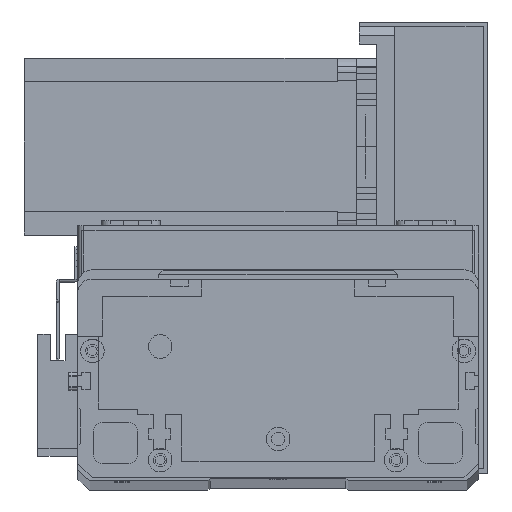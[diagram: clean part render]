
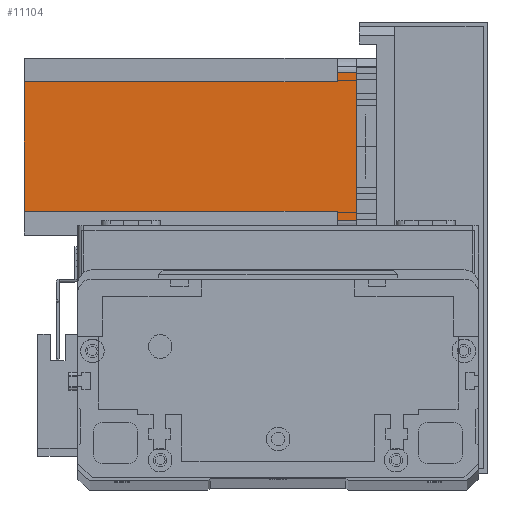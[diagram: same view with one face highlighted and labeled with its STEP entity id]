
A CAD part, top view. The second image highlights one B-rep face of the part: STEP entity #11104.
In plain terms, the highlighted planar face has unit normal (0, 0, 1) as drawn and (0, 1, 0) by its records, which use the part's own axes.
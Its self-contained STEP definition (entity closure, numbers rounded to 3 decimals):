
#647 = CARTESIAN_POINT ( 'NONE',  ( 55., 60., 0. ) ) ;
#1699 = VERTEX_POINT ( 'NONE', #21678 ) ;
#2316 = CARTESIAN_POINT ( 'NONE',  ( 8., 60., -6.5 ) ) ;
#3138 = LINE ( 'NONE', #26683, #27081 ) ;
#3574 = EDGE_LOOP ( 'NONE', ( #27264, #7863, #3942, #17014, #8942, #21915, #13953, #15687 ) ) ;
#3942 = ORIENTED_EDGE ( 'NONE', *, *, #22025, .F. ) ;
#4074 = EDGE_CURVE ( 'NONE', #25356, #17765, #4855, .T. ) ;
#4218 = CARTESIAN_POINT ( 'NONE',  ( 52., 60., -6.5 ) ) ;
#4855 = LINE ( 'NONE', #16626, #10487 ) ;
#5639 = CARTESIAN_POINT ( 'NONE',  ( 5., 60., 0. ) ) ;
#5799 = VECTOR ( 'NONE', #23069, 1000. ) ;
#5819 = LINE ( 'NONE', #4218, #18280 ) ;
#6130 = EDGE_CURVE ( 'NONE', #25356, #21111, #23641, .T. ) ;
#6528 = LINE ( 'NONE', #24067, #24227 ) ;
#6721 = EDGE_CURVE ( 'NONE', #28767, #21111, #28137, .T. ) ;
#7863 = ORIENTED_EDGE ( 'NONE', *, *, #29900, .T. ) ;
#7948 = EDGE_CURVE ( 'NONE', #28767, #23424, #6528, .T. ) ;
#8497 = LINE ( 'NONE', #28758, #11733 ) ;
#8942 = ORIENTED_EDGE ( 'NONE', *, *, #6130, .T. ) ;
#10487 = VECTOR ( 'NONE', #17628, 1000. ) ;
#10754 = CARTESIAN_POINT ( 'NONE',  ( 52., 60., -112.5 ) ) ;
#11076 = EDGE_CURVE ( 'NONE', #23424, #25251, #8497, .T. ) ;
#11104 = ADVANCED_FACE ( 'NONE', ( #17225 ), #28183, .T. ) ;
#11441 = VECTOR ( 'NONE', #22310, 1000. ) ;
#11733 = VECTOR ( 'NONE', #28477, 1000. ) ;
#12613 = CARTESIAN_POINT ( 'NONE',  ( 8., 60., -112.5 ) ) ;
#12823 = DIRECTION ( 'NONE',  ( 0., 0., -1. ) ) ;
#13953 = ORIENTED_EDGE ( 'NONE', *, *, #7948, .T. ) ;
#15687 = ORIENTED_EDGE ( 'NONE', *, *, #11076, .T. ) ;
#16626 = CARTESIAN_POINT ( 'NONE',  ( 52., 60., -112.5 ) ) ;
#17014 = ORIENTED_EDGE ( 'NONE', *, *, #4074, .F. ) ;
#17225 = FACE_OUTER_BOUND ( 'NONE', #3574, .T. ) ;
#17628 = DIRECTION ( 'NONE',  ( 0., 0., 1. ) ) ;
#17742 = DIRECTION ( 'NONE',  ( 0., 0., -1. ) ) ;
#17765 = VERTEX_POINT ( 'NONE', #25952 ) ;
#17962 = CARTESIAN_POINT ( 'NONE',  ( 8., 60., -112.5 ) ) ;
#18280 = VECTOR ( 'NONE', #18313, 1000. ) ;
#18313 = DIRECTION ( 'NONE',  ( 1., 0., 0. ) ) ;
#20868 = VERTEX_POINT ( 'NONE', #647 ) ;
#21111 = VERTEX_POINT ( 'NONE', #17962 ) ;
#21444 = VECTOR ( 'NONE', #12823, 1000. ) ;
#21678 = CARTESIAN_POINT ( 'NONE',  ( 55., 60., -6.5 ) ) ;
#21915 = ORIENTED_EDGE ( 'NONE', *, *, #6721, .F. ) ;
#22025 = EDGE_CURVE ( 'NONE', #17765, #1699, #5819, .T. ) ;
#22310 = DIRECTION ( 'NONE',  ( -1., 0., 0. ) ) ;
#23069 = DIRECTION ( 'NONE',  ( -1., 0., 0. ) ) ;
#23424 = VERTEX_POINT ( 'NONE', #26574 ) ;
#23534 = CARTESIAN_POINT ( 'NONE',  ( 0., 60., -112.5 ) ) ;
#23641 = LINE ( 'NONE', #23534, #11441 ) ;
#23850 = AXIS2_PLACEMENT_3D ( 'NONE', #28289, #28325, #28146 ) ;
#24067 = CARTESIAN_POINT ( 'NONE',  ( 8., 60., -6.5 ) ) ;
#24227 = VECTOR ( 'NONE', #24757, 1000. ) ;
#24252 = LINE ( 'NONE', #25319, #5799 ) ;
#24757 = DIRECTION ( 'NONE',  ( -1., 0., 0. ) ) ;
#25251 = VERTEX_POINT ( 'NONE', #5639 ) ;
#25319 = CARTESIAN_POINT ( 'NONE',  ( 0., 60., 0. ) ) ;
#25356 = VERTEX_POINT ( 'NONE', #10754 ) ;
#25543 = EDGE_CURVE ( 'NONE', #20868, #25251, #24252, .T. ) ;
#25952 = CARTESIAN_POINT ( 'NONE',  ( 52., 60., -6.5 ) ) ;
#26574 = CARTESIAN_POINT ( 'NONE',  ( 5., 60., -6.5 ) ) ;
#26683 = CARTESIAN_POINT ( 'NONE',  ( 55., 60., -112.5 ) ) ;
#27081 = VECTOR ( 'NONE', #17742, 1000. ) ;
#27264 = ORIENTED_EDGE ( 'NONE', *, *, #25543, .F. ) ;
#28137 = LINE ( 'NONE', #12613, #21444 ) ;
#28146 = DIRECTION ( 'NONE',  ( 0., 0., 1. ) ) ;
#28183 = PLANE ( 'NONE',  #23850 ) ;
#28289 = CARTESIAN_POINT ( 'NONE',  ( 0., 60., -112.5 ) ) ;
#28325 = DIRECTION ( 'NONE',  ( 0., 1., 0. ) ) ;
#28477 = DIRECTION ( 'NONE',  ( 0., 0., 1. ) ) ;
#28758 = CARTESIAN_POINT ( 'NONE',  ( 5., 60., -112.5 ) ) ;
#28767 = VERTEX_POINT ( 'NONE', #2316 ) ;
#29900 = EDGE_CURVE ( 'NONE', #20868, #1699, #3138, .T. ) ;
